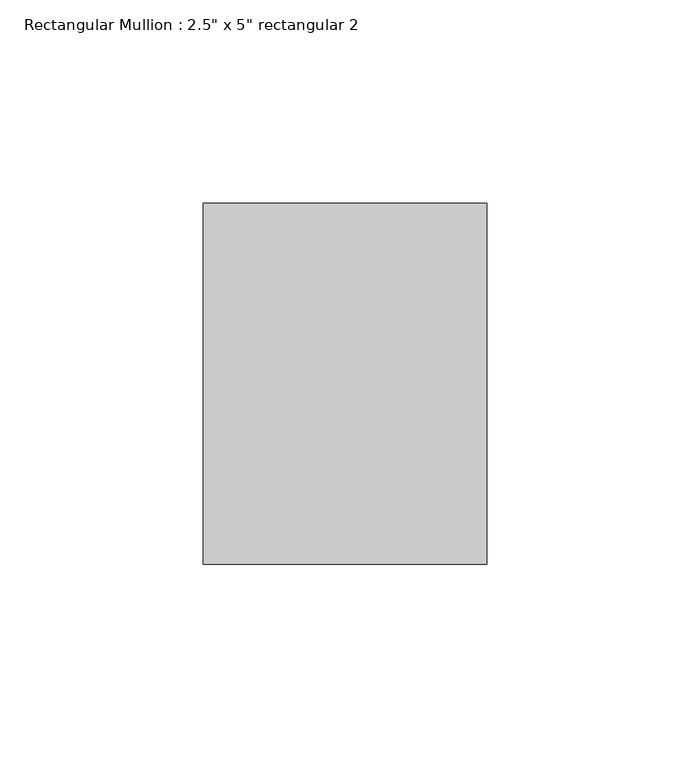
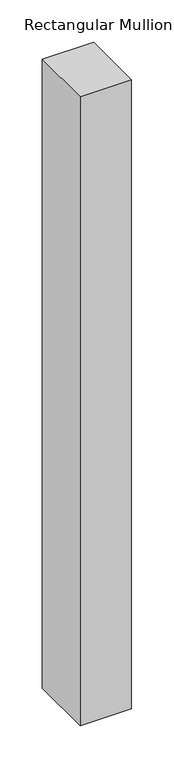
"""IFC4 building model written with IfcOpenShell, lengths in millimetres: member geometry."""

from ifc_helpers import new_model, si_unit, frame, origin, place, context, project, spatial, polyline, outline, extrude, source, transform, mapped, element, save


def member_7b22ae2a(model_context):
    return source(origin(), model_context, "Body", "SweptSolid", [
        extrude(outline(polyline([(38.1, 44.45), (38.1, -44.45), (-31.75, -44.45), (-31.75, 44.45), (38.1, 44.45)])), frame((0.0, 0.0, -906.3559364), z_axis=(0.0, 0.0, 1.0), x_axis=(1.0, 0.0, 0.0)), (0.0, 0.0, 1.0), 906.3559364),
    ])


if __name__ == "__main__":
    model = new_model("IFC4")
    model_context = context("Model", 3, world=origin())
    ifc_project = project(units=[si_unit("LENGTHUNIT", "METRE", prefix="MILLI")], contexts=[model_context])
    site = spatial("IfcSite", under=ifc_project)
    building = spatial("IfcBuilding", under=site)
    placement = place(None, origin())
    member_shape = member_7b22ae2a(model_context)
    element("IfcMember", 1, ObjectType="Rectangular Mullion : 2.5\" x 5\" rectangular 2", at=placement, inside=building, context=model_context, shape_type="MappedRepresentation", body=[
        mapped(member_shape, transform((0.0, 0.0, 0.0), x_axis=(1.0, 0.0, 0.0), y_axis=(0.0, 1.0, 0.0), z_axis=(0.0, 0.0, 1.0))),
    ])
    save(model, "model.ifc")
